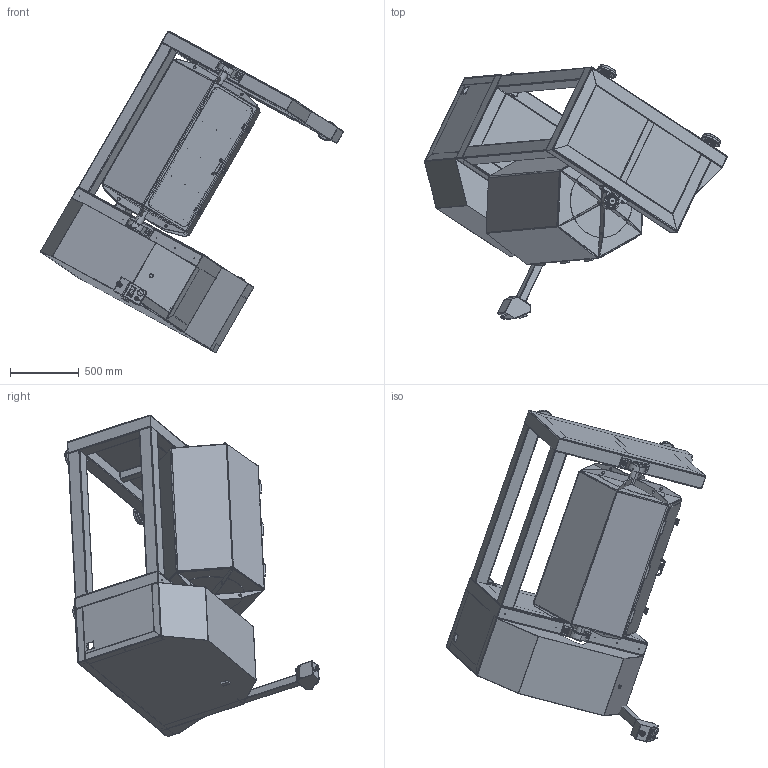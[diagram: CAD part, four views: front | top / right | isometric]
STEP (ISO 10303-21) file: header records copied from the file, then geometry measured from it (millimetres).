
FILE_DESCRIPTION((''),'2;1');
FILE_NAME('barabannay_galtovka_mag-446_3d.stp','2024-03-18T14:56:37+00:00',('none'),('none'),'','','none');
FILE_SCHEMA(('CONFIG_CONTROL_DESIGN'));
Products named in the file (1): Barabannay galtovka MAG-446 3D
Bounding box: 2212.36 x 1854.61 x 2347.56 mm (x, y, z)
Volume: 496378380.6 mm3; surface area: 38911665.6 mm2
Topology: 150 solids, 151 shells, 4468 faces, 11170 edges, 7264 vertices
Faces by surface type: plane 2282, cylinder 1206, bspline 702, cone 158, torus 92, sphere 16, extrusion 12
Entity records: 149111 total; most frequent: CARTESIAN_POINT 53254, ORIENTED_EDGE 22288, DIRECTION 14896, EDGE_CURVE 11144, VERTEX_POINT 7264, VECTOR 5827, LINE 5815, AXIS2_PLACEMENT_3D 5653
